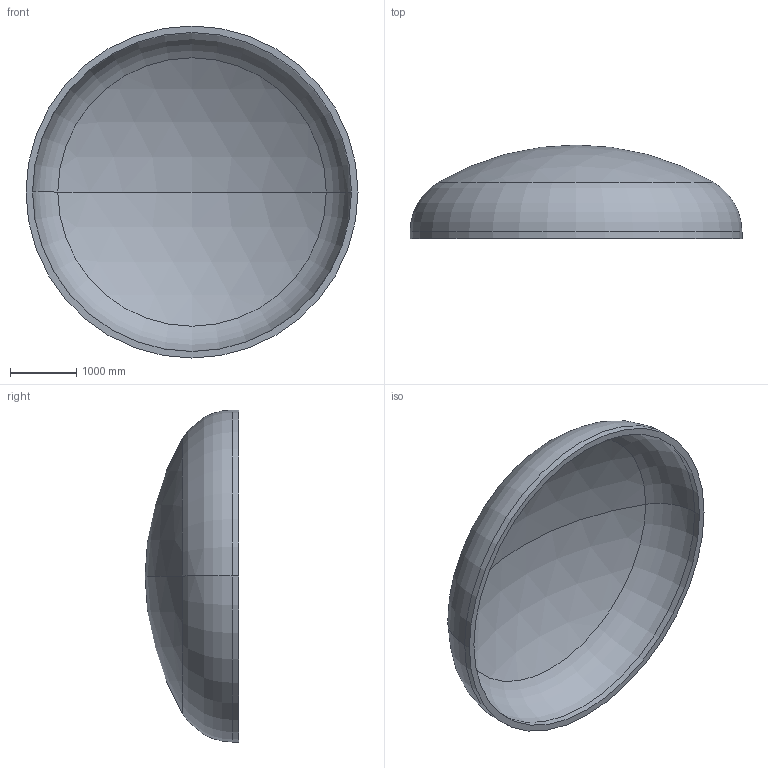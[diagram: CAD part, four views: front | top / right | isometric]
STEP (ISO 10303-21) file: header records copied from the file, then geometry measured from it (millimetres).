
FILE_DESCRIPTION (( 'STEP AP203' ), '1' );
FILE_NAME ('DIN 28013 Korbbogenform_-_Boden DIN 28013 - 5000 x 100 - I - s=98.step', '2016-07-02T00:54:49', ( '' ), ( '' ), 'SwSTEP 2.0', 'SolidWorks 2013', '' );
FILE_SCHEMA (( 'CONFIG_CONTROL_DESIGN' ));
Length unit declared in the file: millimetre
Products named in the file (1): DIN 28013 Korbbogenform_-_Boden DIN 28013 - 5000 x 100 - I - s=98
Bounding box: 5000 x 1410.62 x 5000 mm (x, y, z)
Volume: 2748039395.6 mm3; surface area: 57611739.5 mm2
Topology: 1 solids, 1 shells, 13 faces, 24 edges, 14 vertices
Faces by surface type: torus 4, cylinder 4, sphere 4, plane 1
Entity records: 407 total; most frequent: DIRECTION 72, CARTESIAN_POINT 52, ORIENTED_EDGE 48, AXIS2_PLACEMENT_3D 34, EDGE_CURVE 24, CIRCLE 20, EDGE_LOOP 14, VERTEX_POINT 14
